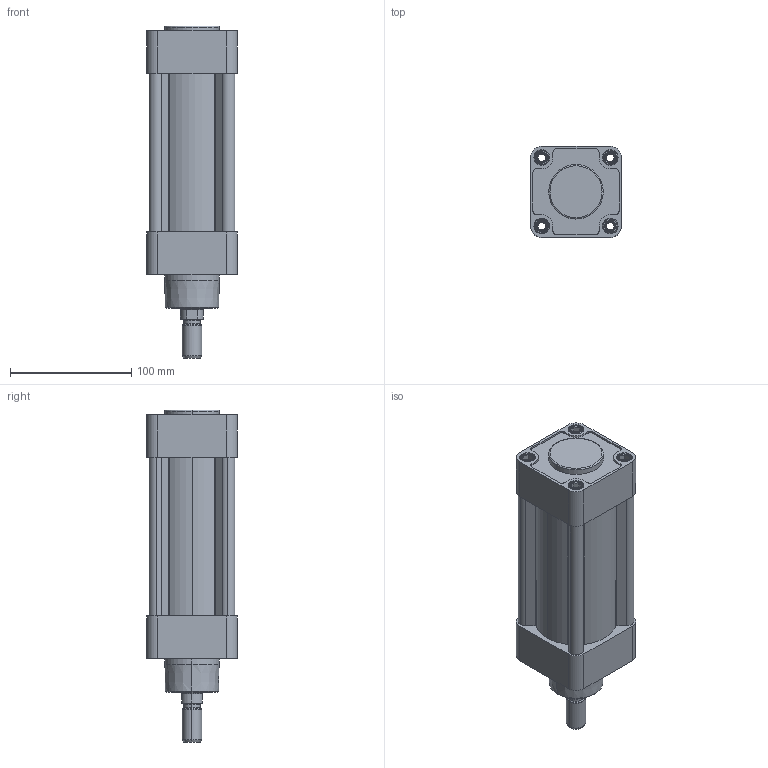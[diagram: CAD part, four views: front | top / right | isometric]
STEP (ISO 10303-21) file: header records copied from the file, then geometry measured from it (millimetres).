
FILE_DESCRIPTION (( 'STEP AP203' ), '1' );
FILE_NAME ('EH0630080G.step', '2014-04-24T11:36:55', ( '' ), ( '' ), 'SwSTEP 2.0', 'SolidWorks 2013', '' );
FILE_SCHEMA (( 'CONFIG_CONTROL_DESIGN' ));
Length unit declared in the file: millimetre
Products named in the file (1): EH0630080G
Bounding box: 75 x 75 x 274 mm (x, y, z)
Surface area: 112078.1 mm2 (no closed solid volume)
Topology: 0 solids, 17 shells, 356 faces, 970 edges, 647 vertices
Faces by surface type: plane 142, cylinder 110, cone 93, torus 11
Entity records: 11739 total; most frequent: CARTESIAN_POINT 2578, DIRECTION 2009, ORIENTED_EDGE 1707, EDGE_CURVE 970, AXIS2_PLACEMENT_3D 760, VERTEX_POINT 647, LINE 489, VECTOR 489
